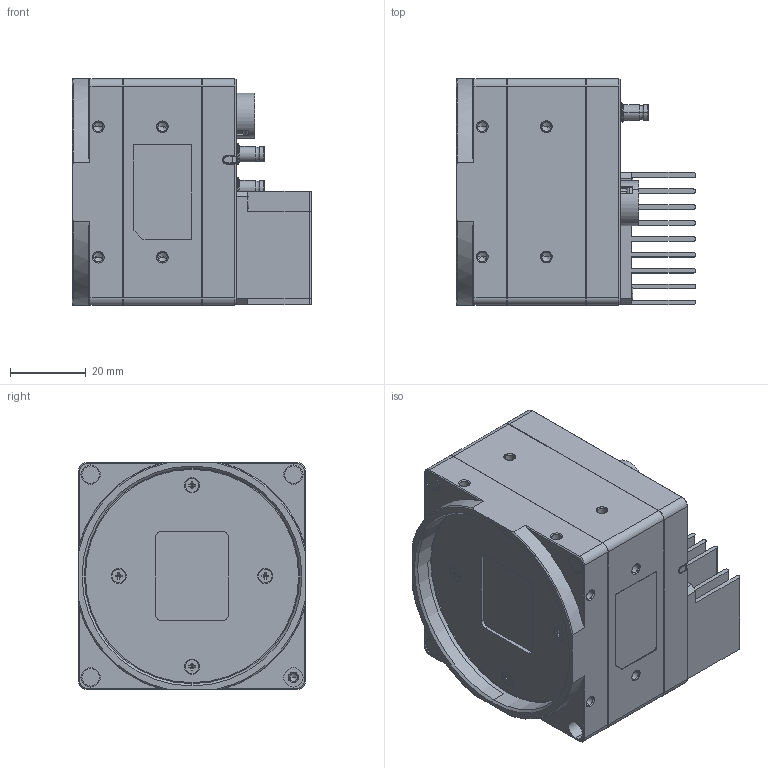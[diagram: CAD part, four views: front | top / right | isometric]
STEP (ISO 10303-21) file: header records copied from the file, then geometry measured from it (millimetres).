
FILE_DESCRIPTION((''),'2;1');
FILE_NAME('MV-CH250-90YM-M58-','2023-08-01T21:17:49',('wangyijun6'),(''),'CREO PARAMETRIC BY PTC INC, 2017260','CREO PARAMETRIC BY PTC INC, 2017260','');
FILE_SCHEMA(('CONFIG_CONTROL_DESIGN'));
Products named in the file (1): MV-CH250-90YM-M58-
Bounding box: 63.36 x 60 x 60 mm (x, y, z)
Volume: 134269.5 mm3; surface area: 48012.6 mm2
Topology: 1 solids, 40 shells, 2132 faces, 5552 edges, 3488 vertices
Faces by surface type: plane 849, cylinder 737, cone 390, torus 90, bspline 62, extrusion 4
Entity records: 102783 total; most frequent: CARTESIAN_POINT 50635, DIRECTION 10973, ORIENTED_EDGE 10924, EDGE_CURVE 5479, AXIS2_PLACEMENT_3D 4145, VERTEX_POINT 3488, VECTOR 2683, LINE 2679
